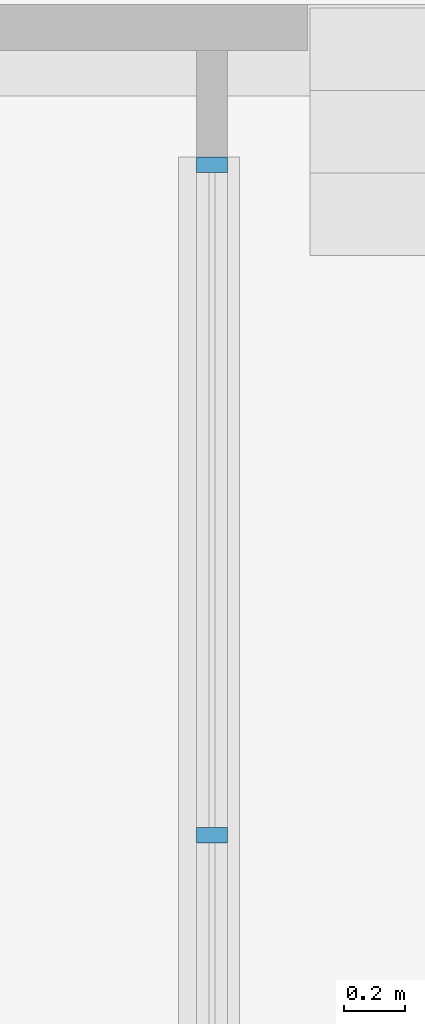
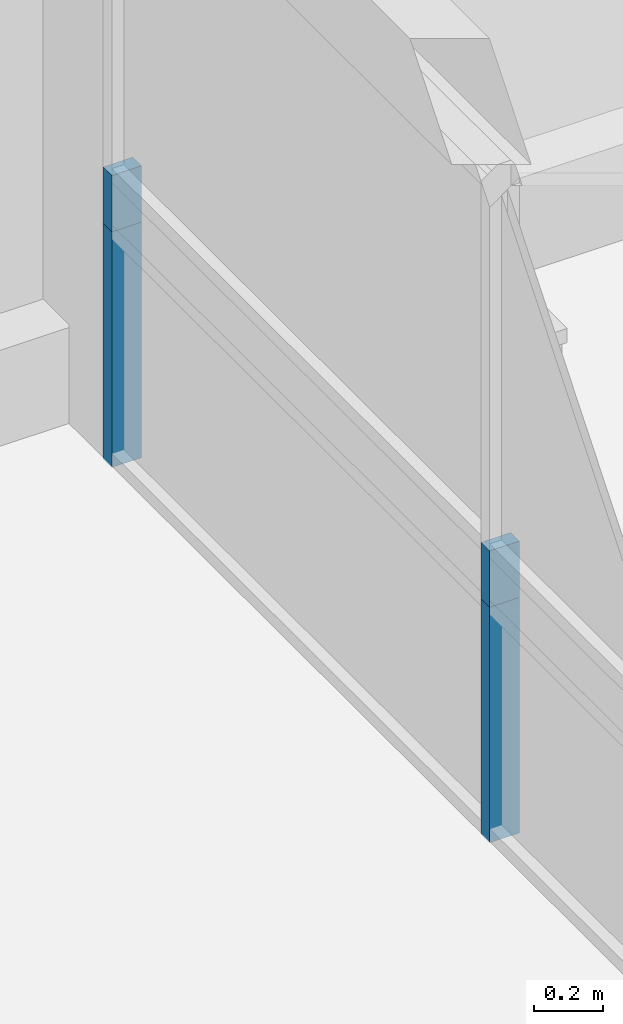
# One storey, part 67 of 153: 4 members, 1 element without a shape of its own.
"""IFC4 building model written with IfcOpenShell, lengths in metres."""

from ifc_helpers import new_model, entity, si_unit, converted_unit, derived_unit, direction, frame, origin, place, context, subcontext, project, spatial, indexed_curve, outline, extrude, source, transform, mapped, material, type_object, type_shapes, element, aggregate, save


model = new_model("IFC4")

# Units and contexts
model_context = context("Model", 3, precision=1e-05, world=origin(), true_north=direction((6.123031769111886e-17, 1.0)))
body_context = subcontext(model_context, "Body", "Model", "MODEL_VIEW")
ifc_project = project(units=[si_unit("LENGTHUNIT", "METRE"), si_unit("AREAUNIT", "SQUARE_METRE"), si_unit("VOLUMEUNIT", "CUBIC_METRE"), converted_unit("PLANEANGLEUNIT", "DEGREE", entity("IfcRatioMeasure", 0.017453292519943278), si_unit("PLANEANGLEUNIT", "RADIAN"), dimensions=[0, 0, 0, 0, 0, 0, 0]), si_unit("MASSUNIT", "GRAM", prefix="KILO"), derived_unit("MASSDENSITYUNIT", [(si_unit("MASSUNIT", "GRAM", prefix="KILO"), 1), (si_unit("LENGTHUNIT", "METRE"), -3)]), derived_unit("MOMENTOFINERTIAUNIT", [(si_unit("LENGTHUNIT", "METRE"), 4)]), si_unit("TIMEUNIT", "SECOND"), si_unit("FREQUENCYUNIT", "HERTZ"), si_unit("THERMODYNAMICTEMPERATUREUNIT", "DEGREE_CELSIUS"), derived_unit("THERMALTRANSMITTANCEUNIT", [(si_unit("MASSUNIT", "GRAM", prefix="KILO"), 1), (si_unit("THERMODYNAMICTEMPERATUREUNIT", "KELVIN"), -1), (si_unit("TIMEUNIT", "SECOND"), -3)]), derived_unit("VOLUMETRICFLOWRATEUNIT", [(si_unit("LENGTHUNIT", "METRE"), 3), (si_unit("TIMEUNIT", "SECOND"), -1)]), derived_unit("MASSFLOWRATEUNIT", [(si_unit("MASSUNIT", "GRAM", prefix="KILO"), 1), (si_unit("TIMEUNIT", "SECOND"), -1)]), derived_unit("ROTATIONALFREQUENCYUNIT", [(si_unit("TIMEUNIT", "SECOND"), -1)]), si_unit("ELECTRICCURRENTUNIT", "AMPERE"), si_unit("ELECTRICVOLTAGEUNIT", "VOLT"), si_unit("POWERUNIT", "WATT"), si_unit("FORCEUNIT", "NEWTON", prefix="KILO"), si_unit("ILLUMINANCEUNIT", "LUX"), si_unit("LUMINOUSFLUXUNIT", "LUMEN"), si_unit("LUMINOUSINTENSITYUNIT", "CANDELA"), derived_unit("USERDEFINED", [(si_unit("MASSUNIT", "GRAM", prefix="KILO"), -1), (si_unit("LENGTHUNIT", "METRE"), -2), (si_unit("TIMEUNIT", "SECOND"), 3), (si_unit("LUMINOUSFLUXUNIT", "LUMEN"), 1)]), derived_unit("SOUNDPOWERUNIT", [(si_unit("MASSUNIT", "GRAM", prefix="KILO"), 1), (si_unit("LENGTHUNIT", "METRE"), 2), (si_unit("TIMEUNIT", "SECOND"), -3)]), derived_unit("SOUNDPRESSUREUNIT", [(si_unit("MASSUNIT", "GRAM", prefix="KILO"), 1), (si_unit("LENGTHUNIT", "METRE"), -1), (si_unit("TIMEUNIT", "SECOND"), -2)]), derived_unit("LINEARVELOCITYUNIT", [(si_unit("LENGTHUNIT", "METRE"), 1), (si_unit("TIMEUNIT", "SECOND"), -1)]), si_unit("PRESSUREUNIT", "PASCAL"), derived_unit("USERDEFINED", [(si_unit("LENGTHUNIT", "METRE"), -2), (si_unit("MASSUNIT", "GRAM", prefix="KILO"), 1), (si_unit("TIMEUNIT", "SECOND"), -2)]), derived_unit("LINEARFORCEUNIT", [(si_unit("MASSUNIT", "GRAM", prefix="KILO"), 1), (si_unit("LENGTHUNIT", "METRE"), 1), (si_unit("TIMEUNIT", "SECOND"), -2), (si_unit("LENGTHUNIT", "METRE"), -1)]), derived_unit("PLANARFORCEUNIT", [(si_unit("MASSUNIT", "GRAM", prefix="KILO"), 1), (si_unit("LENGTHUNIT", "METRE"), 1), (si_unit("TIMEUNIT", "SECOND"), -2), (si_unit("LENGTHUNIT", "METRE"), -2)])], contexts=[model_context])

# Site, building, storey
site_placement = place(None, origin())
site = spatial("IfcSite", under=ifc_project, at=site_placement, Name="Superficie", CompositionType="ELEMENT")
building_placement = place(site_placement, origin())
building = spatial("IfcBuilding", under=site, at=building_placement, CompositionType="ELEMENT")
storey_placement = place(building_placement, frame((0.0, 0.0, 3.5999999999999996)))
storey = spatial("IfcBuildingStorey", under=building, at=storey_placement, Name="Nivel 1", CompositionType="ELEMENT", Elevation=3.5999999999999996)

# Curtain wall, members
curtain_wall_type = type_object("IfcCurtainWallType", Name="Muro cortina:Muro cortina - simple", PredefinedType="NOTDEFINED")
curtain_wall_placement = place(storey_placement, frame((0.0, 0.0, -3.5999999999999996)))
curtain_wall = element("IfcCurtainWall", 1, at=curtain_wall_placement, inside=storey, type_object=curtain_wall_type, Name="Muro cortina:Muro cortina - simple", ObjectType="Muro cortina:Muro cortina - simple", PredefinedType="NOTDEFINED")
ifc_material = material(Name="<Unnamed>")
member_type_1 = type_object("IfcMemberType", Name="Montante rectangular:Montante rectangular - 5 x 10 cm", PredefinedType="MULLION", material=ifc_material)
shared_shape_1 = source(origin(), body_context, "Body", "SweptSolid", [
    extrude(outline(indexed_curve([(-0.05, -0.025), (0.05, -0.025), (0.05, 0.025), (-0.05, 0.025), (-0.05, -0.025)], self_intersect=False)), frame((0.0, 0.0, -0.19999999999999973), z_axis=(0.0, 0.0, 1.0), x_axis=(0.0, -1.0, 0.0)), (0.0, 0.0, 1.0), 0.19999999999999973),
])
type_shapes(member_type_1, [shared_shape_1])
member_1_placement = place(curtain_wall_placement, frame((3.0917990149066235, 3.057083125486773, 4.43), z_axis=(0.0, 0.0, -1.0), x_axis=(0.0, 1.0, 0.0)))
member_1 = element("IfcMember", 2, at=member_1_placement, type_object=member_type_1, material=ifc_material, Name="Montante rectangular:Montante rectangular - 5 x 10 cm", ObjectType="Montante rectangular:Montante rectangular - 5 x 10 cm", PredefinedType="MULLION", context=body_context, shape_type="MappedRepresentation", body=[
    mapped(shared_shape_1, transform((0.0, 0.0, 0.0), scale=1.0)),
])
member_type_2 = type_object("IfcMemberType", Name="Montante rectangular:Montante rectangular - 5 x 10 cm", PredefinedType="MULLION", material=ifc_material)
shared_shape_2 = source(origin(), body_context, "Body", "SweptSolid", [
    extrude(outline(indexed_curve([(-0.05, -0.025), (0.05, -0.025), (0.05, 0.025), (-0.05, 0.025), (-0.05, -0.025)], self_intersect=False)), frame((0.0, 0.0, -0.8350000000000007), z_axis=(0.0, 0.0, 1.0), x_axis=(0.0, -1.0, 0.0)), (0.0, 0.0, 1.0), 0.8350000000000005),
])
type_shapes(member_type_2, [shared_shape_2])
member_2_placement = place(curtain_wall_placement, frame((3.0917990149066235, 3.057083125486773, 3.5949999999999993), z_axis=(0.0, 0.0, -1.0), x_axis=(0.0, 1.0, 0.0)))
member_2 = element("IfcMember", 3, at=member_2_placement, type_object=member_type_2, material=ifc_material, Name="Montante rectangular:Montante rectangular - 5 x 10 cm", ObjectType="Montante rectangular:Montante rectangular - 5 x 10 cm", PredefinedType="MULLION", context=body_context, shape_type="MappedRepresentation", body=[
    mapped(shared_shape_2, transform((0.0, 0.0, 0.0), scale=1.0)),
])
member_type_3 = type_object("IfcMemberType", Name="Montante rectangular:Montante rectangular - 5 x 10 cm", PredefinedType="MULLION", material=ifc_material)
shared_shape_3 = source(origin(), body_context, "Body", "SweptSolid", [
    extrude(outline(indexed_curve([(-0.05, -0.025), (0.05, -0.025), (0.05, 0.025), (-0.05, 0.025), (-0.05, -0.025)], self_intersect=False)), frame((-0.025, 0.0, -0.2), z_axis=(0.0, 0.0, 1.0), x_axis=(0.0, -1.0, 0.0)), (0.0, 0.0, 1.0), 0.2),
])
type_shapes(member_type_3, [shared_shape_3])
member_3_placement = place(curtain_wall_placement, frame((3.091799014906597, 5.276393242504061, 4.43), z_axis=(0.0, 0.0, -1.0), x_axis=(0.0, 1.0, 0.0)))
member_3 = element("IfcMember", 4, at=member_3_placement, type_object=member_type_3, material=ifc_material, Name="Montante rectangular:Montante rectangular - 5 x 10 cm", ObjectType="Montante rectangular:Montante rectangular - 5 x 10 cm", PredefinedType="MULLION", context=body_context, shape_type="MappedRepresentation", body=[
    mapped(shared_shape_3, transform((0.0, 0.0, 0.0), scale=1.0)),
])
member_type_4 = type_object("IfcMemberType", Name="Montante rectangular:Montante rectangular - 5 x 10 cm", PredefinedType="MULLION", material=ifc_material)
shared_shape_4 = source(origin(), body_context, "Body", "SweptSolid", [
    extrude(outline(indexed_curve([(-0.05, -0.025), (0.05, -0.025), (0.05, 0.025), (-0.05, 0.025), (-0.05, -0.025)], self_intersect=False)), frame((-0.025, 0.0, -0.8349999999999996), z_axis=(0.0, 0.0, 1.0), x_axis=(0.0, -1.0, 0.0)), (0.0, 0.0, 1.0), 0.8349999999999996),
])
type_shapes(member_type_4, [shared_shape_4])
member_4_placement = place(curtain_wall_placement, frame((3.091799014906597, 5.276393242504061, 3.5949999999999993), z_axis=(0.0, 0.0, -1.0), x_axis=(0.0, 1.0, 0.0)))
member_4 = element("IfcMember", 5, at=member_4_placement, type_object=member_type_4, material=ifc_material, Name="Montante rectangular:Montante rectangular - 5 x 10 cm", ObjectType="Montante rectangular:Montante rectangular - 5 x 10 cm", PredefinedType="MULLION", context=body_context, shape_type="MappedRepresentation", body=[
    mapped(shared_shape_4, transform((0.0, 0.0, 0.0), scale=1.0)),
])
aggregate(curtain_wall, [member_1, member_2, member_3, member_4])

save(model, "model.ifc")
